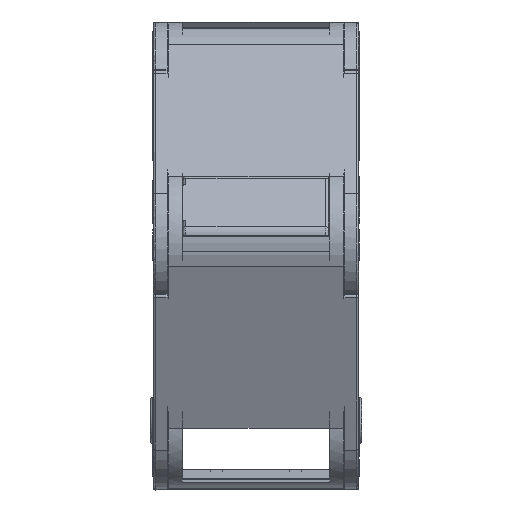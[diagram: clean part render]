
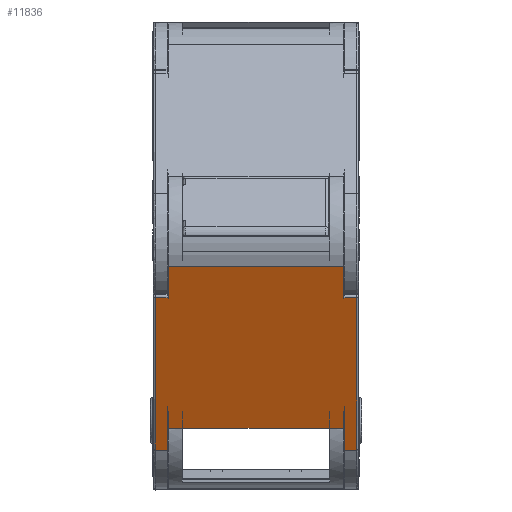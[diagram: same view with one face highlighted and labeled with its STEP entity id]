
A CAD part, top view. The second image highlights one B-rep face of the part: STEP entity #11836.
In plain terms, the highlighted planar face has unit normal (0, -0.407, 0.913) as drawn and (0, -1, 0) by its records, which use the part's own axes.
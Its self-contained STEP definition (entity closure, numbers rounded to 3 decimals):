
#98 = VECTOR ( 'NONE', #16082, 1000. ) ;
#170 = ORIENTED_EDGE ( 'NONE', *, *, #3934, .F. ) ;
#429 = ORIENTED_EDGE ( 'NONE', *, *, #20491, .F. ) ;
#579 = VERTEX_POINT ( 'NONE', #5033 ) ;
#613 = CARTESIAN_POINT ( 'NONE',  ( 221.708, -77.815, 6.336 ) ) ;
#745 = CARTESIAN_POINT ( 'NONE',  ( 175.312, -77.815, 12.133 ) ) ;
#913 = CARTESIAN_POINT ( 'NONE',  ( 189.787, -77.815, 12.133 ) ) ;
#1347 = EDGE_CURVE ( 'NONE', #579, #8748, #8184, .T. ) ;
#1397 = EDGE_CURVE ( 'NONE', #4916, #15716, #19923, .T. ) ;
#1622 = ORIENTED_EDGE ( 'NONE', *, *, #1347, .F. ) ;
#2084 = VECTOR ( 'NONE', #18815, 1000. ) ;
#2155 = CARTESIAN_POINT ( 'NONE',  ( 175.312, -77.815, 6.336 ) ) ;
#2445 = VECTOR ( 'NONE', #4673, 1000. ) ;
#2450 = EDGE_CURVE ( 'NONE', #20290, #17495, #19430, .T. ) ;
#2504 = AXIS2_PLACEMENT_3D ( 'NONE', #20799, #14479, #4806 ) ;
#3102 = DIRECTION ( 'NONE',  ( 1., 0., 0. ) ) ;
#3445 = CARTESIAN_POINT ( 'NONE',  ( 175.312, -77.815, -17.794 ) ) ;
#3471 = FACE_OUTER_BOUND ( 'NONE', #7634, .T. ) ;
#3529 = VECTOR ( 'NONE', #15466, 1000. ) ;
#3696 = LINE ( 'NONE', #8205, #11324 ) ;
#3704 = CARTESIAN_POINT ( 'NONE',  ( 219.536, -77.815, 6.336 ) ) ;
#3831 = VECTOR ( 'NONE', #3102, 1000. ) ;
#3934 = EDGE_CURVE ( 'NONE', #13687, #15037, #4036, .T. ) ;
#4036 = LINE ( 'NONE', #4143, #3529 ) ;
#4143 = CARTESIAN_POINT ( 'NONE',  ( 189.737, -77.815, 6.336 ) ) ;
#4525 = CARTESIAN_POINT ( 'NONE',  ( 189.787, -77.815, 6.336 ) ) ;
#4673 = DIRECTION ( 'NONE',  ( -1., 0., 0. ) ) ;
#4806 = DIRECTION ( 'NONE',  ( 0., 0., 1. ) ) ;
#4916 = VERTEX_POINT ( 'NONE', #18065 ) ;
#5033 = CARTESIAN_POINT ( 'NONE',  ( 187.615, -77.815, 6.336 ) ) ;
#5719 = CARTESIAN_POINT ( 'NONE',  ( 175.312, -77.815, -21.805 ) ) ;
#6480 = DIRECTION ( 'NONE',  ( 0., 0., -1. ) ) ;
#6746 = LINE ( 'NONE', #12761, #2445 ) ;
#7038 = VECTOR ( 'NONE', #18600, 1000. ) ;
#7634 = EDGE_LOOP ( 'NONE', ( #16911, #16025, #7887, #19673, #20181, #13236, #11534, #429, #1622, #20521, #14131, #170 ) ) ;
#7781 = VERTEX_POINT ( 'NONE', #913 ) ;
#7887 = ORIENTED_EDGE ( 'NONE', *, *, #13116, .F. ) ;
#8013 = VERTEX_POINT ( 'NONE', #20268 ) ;
#8036 = PLANE ( 'NONE',  #2504 ) ;
#8060 = VECTOR ( 'NONE', #12075, 1000. ) ;
#8184 = LINE ( 'NONE', #2155, #3831 ) ;
#8205 = CARTESIAN_POINT ( 'NONE',  ( 175.312, -77.815, 6.336 ) ) ;
#8415 = DIRECTION ( 'NONE',  ( 0., 0., 1. ) ) ;
#8587 = LINE ( 'NONE', #745, #8060 ) ;
#8748 = VERTEX_POINT ( 'NONE', #14595 ) ;
#9189 = CARTESIAN_POINT ( 'NONE',  ( 189.737, -77.815, -21.805 ) ) ;
#9359 = LINE ( 'NONE', #3445, #17365 ) ;
#9477 = CARTESIAN_POINT ( 'NONE',  ( 187.615, -77.815, -21.805 ) ) ;
#9594 = LINE ( 'NONE', #13657, #16628 ) ;
#9829 = DIRECTION ( 'NONE',  ( 1., 0., 0. ) ) ;
#10053 = CARTESIAN_POINT ( 'NONE',  ( 219.586, -77.815, 6.336 ) ) ;
#11084 = CARTESIAN_POINT ( 'NONE',  ( 219.536, -77.815, 12.133 ) ) ;
#11324 = VECTOR ( 'NONE', #9829, 1000. ) ;
#11534 = ORIENTED_EDGE ( 'NONE', *, *, #12117, .F. ) ;
#11620 = CARTESIAN_POINT ( 'NONE',  ( 189.737, -77.815, -17.794 ) ) ;
#11707 = EDGE_CURVE ( 'NONE', #15716, #13687, #9359, .T. ) ;
#11836 = ADVANCED_FACE ( 'NONE', ( #3471 ), #8036, .F. ) ;
#12075 = DIRECTION ( 'NONE',  ( 1., 0., 0. ) ) ;
#12100 = EDGE_CURVE ( 'NONE', #17831, #579, #9594, .T. ) ;
#12117 = EDGE_CURVE ( 'NONE', #7781, #20290, #8587, .T. ) ;
#12215 = EDGE_CURVE ( 'NONE', #15037, #17831, #19809, .T. ) ;
#12735 = EDGE_CURVE ( 'NONE', #17495, #13340, #3696, .T. ) ;
#12761 = CARTESIAN_POINT ( 'NONE',  ( 175.312, -77.815, -21.805 ) ) ;
#13116 = EDGE_CURVE ( 'NONE', #8013, #4916, #6746, .T. ) ;
#13236 = ORIENTED_EDGE ( 'NONE', *, *, #2450, .F. ) ;
#13340 = VERTEX_POINT ( 'NONE', #613 ) ;
#13657 = CARTESIAN_POINT ( 'NONE',  ( 187.615, -77.815, 6.336 ) ) ;
#13687 = VERTEX_POINT ( 'NONE', #11620 ) ;
#14131 = ORIENTED_EDGE ( 'NONE', *, *, #12215, .F. ) ;
#14430 = LINE ( 'NONE', #4525, #2084 ) ;
#14479 = DIRECTION ( 'NONE',  ( 0., 1., 0. ) ) ;
#14595 = CARTESIAN_POINT ( 'NONE',  ( 189.787, -77.815, 6.336 ) ) ;
#15037 = VERTEX_POINT ( 'NONE', #9189 ) ;
#15279 = DIRECTION ( 'NONE',  ( 0., 0., 1. ) ) ;
#15466 = DIRECTION ( 'NONE',  ( 0., 0., -1. ) ) ;
#15716 = VERTEX_POINT ( 'NONE', #16593 ) ;
#16025 = ORIENTED_EDGE ( 'NONE', *, *, #1397, .F. ) ;
#16082 = DIRECTION ( 'NONE',  ( 0., 0., -1. ) ) ;
#16230 = VECTOR ( 'NONE', #8415, 1000. ) ;
#16392 = DIRECTION ( 'NONE',  ( -1., 0., 0. ) ) ;
#16593 = CARTESIAN_POINT ( 'NONE',  ( 219.586, -77.815, -17.794 ) ) ;
#16628 = VECTOR ( 'NONE', #15279, 1000. ) ;
#16911 = ORIENTED_EDGE ( 'NONE', *, *, #11707, .F. ) ;
#17238 = LINE ( 'NONE', #20761, #98 ) ;
#17365 = VECTOR ( 'NONE', #16392, 1000. ) ;
#17495 = VERTEX_POINT ( 'NONE', #3704 ) ;
#17733 = CARTESIAN_POINT ( 'NONE',  ( 219.536, -77.815, 6.336 ) ) ;
#17831 = VERTEX_POINT ( 'NONE', #9477 ) ;
#18065 = CARTESIAN_POINT ( 'NONE',  ( 219.586, -77.815, -21.805 ) ) ;
#18600 = DIRECTION ( 'NONE',  ( -1., 0., 0. ) ) ;
#18815 = DIRECTION ( 'NONE',  ( 0., 0., 1. ) ) ;
#18945 = VECTOR ( 'NONE', #6480, 1000. ) ;
#19430 = LINE ( 'NONE', #17733, #18945 ) ;
#19673 = ORIENTED_EDGE ( 'NONE', *, *, #19961, .F. ) ;
#19809 = LINE ( 'NONE', #5719, #7038 ) ;
#19923 = LINE ( 'NONE', #10053, #16230 ) ;
#19961 = EDGE_CURVE ( 'NONE', #13340, #8013, #17238, .T. ) ;
#20181 = ORIENTED_EDGE ( 'NONE', *, *, #12735, .F. ) ;
#20268 = CARTESIAN_POINT ( 'NONE',  ( 221.708, -77.815, -21.814 ) ) ;
#20290 = VERTEX_POINT ( 'NONE', #11084 ) ;
#20491 = EDGE_CURVE ( 'NONE', #8748, #7781, #14430, .T. ) ;
#20521 = ORIENTED_EDGE ( 'NONE', *, *, #12100, .F. ) ;
#20761 = CARTESIAN_POINT ( 'NONE',  ( 221.708, -77.815, 6.336 ) ) ;
#20799 = CARTESIAN_POINT ( 'NONE',  ( 175.312, -77.815, 6.336 ) ) ;
